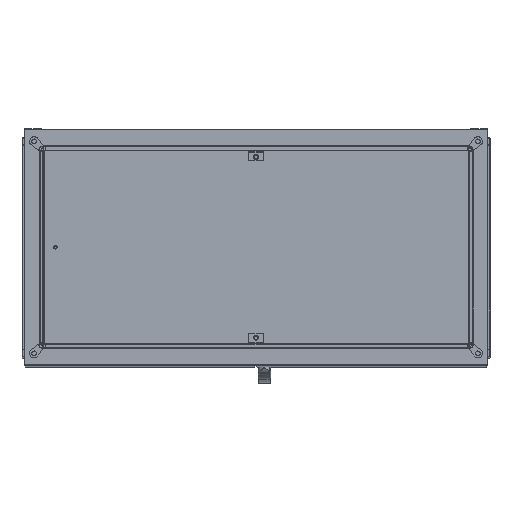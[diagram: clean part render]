
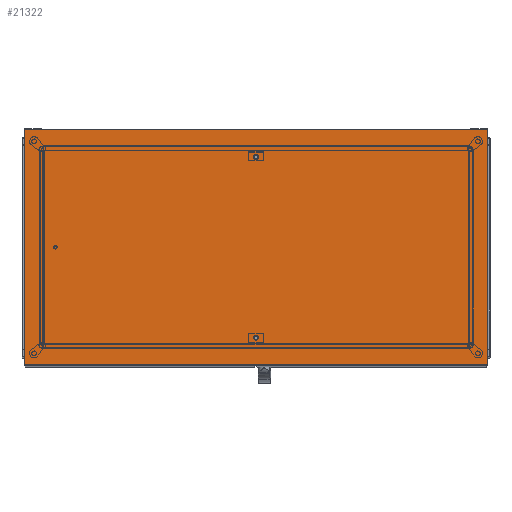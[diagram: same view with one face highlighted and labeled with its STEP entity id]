
A CAD part, top view. The second image highlights one B-rep face of the part: STEP entity #21322.
In plain terms, the highlighted planar face has unit normal (0, 0, 1) as drawn and (0, -1, 0) by its records, which use the part's own axes.
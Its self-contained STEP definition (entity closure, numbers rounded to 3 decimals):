
#1376=CIRCLE('',#23271,6.318);
#1377=CIRCLE('',#23272,6.318);
#6132=ORIENTED_EDGE('',*,*,#10088,.F.);
#6133=ORIENTED_EDGE('',*,*,#10101,.F.);
#6134=ORIENTED_EDGE('',*,*,#10047,.F.);
#6135=ORIENTED_EDGE('',*,*,#10094,.F.);
#6136=ORIENTED_EDGE('',*,*,#10108,.F.);
#6137=ORIENTED_EDGE('',*,*,#10109,.F.);
#10047=EDGE_CURVE('',#12377,#12378,#14451,.T.);
#10088=EDGE_CURVE('',#12412,#12413,#14481,.T.);
#10094=EDGE_CURVE('',#12413,#12377,#14486,.T.);
#10101=EDGE_CURVE('',#12378,#12412,#14493,.T.);
#10108=EDGE_CURVE('',#12426,#12426,#1376,.T.);
#10109=EDGE_CURVE('',#12427,#12427,#1377,.T.);
#12377=VERTEX_POINT('',#35133);
#12378=VERTEX_POINT('',#35135);
#12412=VERTEX_POINT('',#35213);
#12413=VERTEX_POINT('',#35215);
#12426=VERTEX_POINT('',#35251);
#12427=VERTEX_POINT('',#35253);
#14451=LINE('',#35134,#16548);
#14481=LINE('',#35214,#16578);
#14486=LINE('',#35226,#16583);
#14493=LINE('',#35238,#16590);
#16548=VECTOR('',#28323,1000.);
#16578=VECTOR('',#28383,1000.);
#16583=VECTOR('',#28392,1000.);
#16590=VECTOR('',#28401,1000.);
#18069=EDGE_LOOP('',(#6132,#6133,#6134,#6135));
#18070=EDGE_LOOP('',(#6136));
#18071=EDGE_LOOP('',(#6137));
#19388=FACE_BOUND('',#18069,.T.);
#19389=FACE_BOUND('',#18070,.T.);
#19390=FACE_BOUND('',#18071,.T.);
#20268=PLANE('',#23270);
#21322=ADVANCED_FACE('',(#19388,#19389,#19390),#20268,.F.);
#23270=AXIS2_PLACEMENT_3D('',#35249,#28408,#28409);
#23271=AXIS2_PLACEMENT_3D('',#35250,#28410,#28411);
#23272=AXIS2_PLACEMENT_3D('',#35252,#28412,#28413);
#28323=DIRECTION('',(1.,0.,0.));
#28383=DIRECTION('',(-1.,0.,0.));
#28392=DIRECTION('',(0.,0.,1.));
#28401=DIRECTION('',(0.,0.,-1.));
#28408=DIRECTION('',(0.,1.,0.));
#28409=DIRECTION('',(0.,0.,1.));
#28410=DIRECTION('',(0.,-1.,0.));
#28411=DIRECTION('',(0.,0.,-1.));
#28412=DIRECTION('',(0.,-1.,0.));
#28413=DIRECTION('',(0.,0.,-1.));
#35133=CARTESIAN_POINT('',(-599.5,0.,305.5));
#35134=CARTESIAN_POINT('',(-599.5,0.,305.5));
#35135=CARTESIAN_POINT('',(599.5,0.,305.5));
#35213=CARTESIAN_POINT('',(599.5,0.,-305.5));
#35214=CARTESIAN_POINT('',(599.5,0.,-305.5));
#35215=CARTESIAN_POINT('',(-599.5,0.,-305.5));
#35226=CARTESIAN_POINT('',(-599.5,0.,-305.5));
#35238=CARTESIAN_POINT('',(599.5,0.,305.5));
#35249=CARTESIAN_POINT('',(0.,0.,0.));
#35250=CARTESIAN_POINT('',(0.,0.,234.));
#35251=CARTESIAN_POINT('',(0.,0.,227.682));
#35252=CARTESIAN_POINT('',(0.,0.,-234.));
#35253=CARTESIAN_POINT('',(0.,0.,-240.318));
